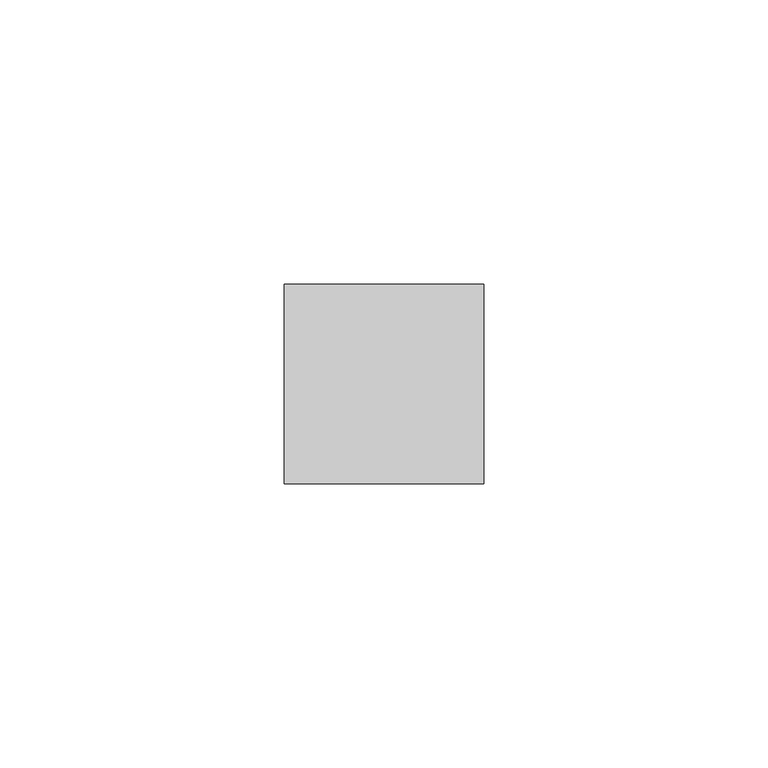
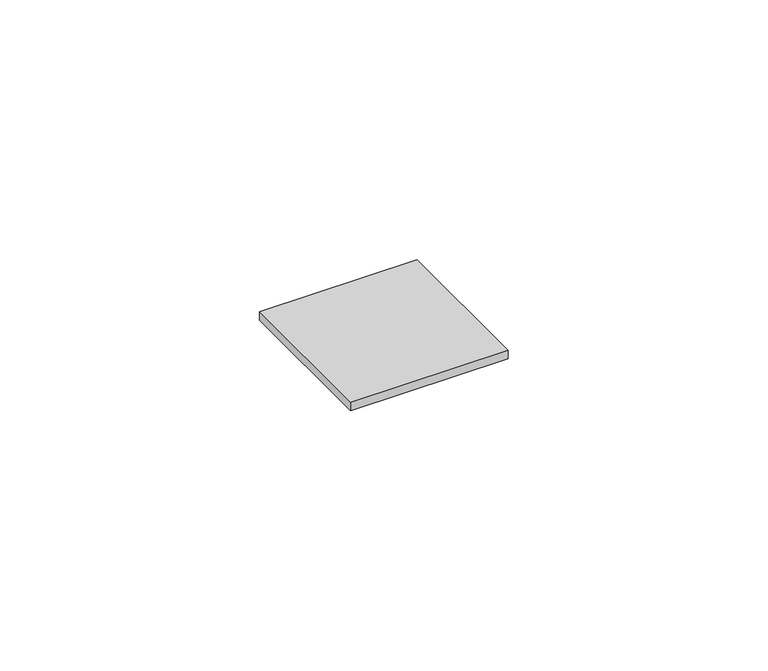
"""IFC4 building model written with IfcOpenShell, lengths in millimetres: duct fitting geometry, Накладка на стык - DLP - на защелках - для DLP - секционируемая - белая : Накладка на стык - DLP - на защелках - для DLP - секционируемая - белая."""

from ifc_helpers import new_model, si_unit, frame, origin, place, context, project, spatial, polyline, outline, extrude, source, transform, mapped, element, save


def duct_fitting_ebcba0b6(model_context):
    return source(origin(), model_context, "Body", "SweptSolid", [
        extrude(outline(polyline([(-17.5, 17.5), (17.5, 17.5), (17.5, -17.5), (-17.5, -17.5), (-17.5, 17.5)])), frame((0.0, 0.0, -1.0), z_axis=(0.0, 0.0, 1.0), x_axis=(1.0, 0.0, 0.0)), (0.0, 0.0, 1.0), 2.0),
    ])


if __name__ == "__main__":
    model = new_model("IFC4")
    model_context = context("Model", 3, world=origin())
    ifc_project = project(units=[si_unit("LENGTHUNIT", "METRE", prefix="MILLI")], contexts=[model_context])
    site = spatial("IfcSite", under=ifc_project)
    building = spatial("IfcBuilding", under=site)
    placement = place(None, origin())
    duct_fitting_shape = duct_fitting_ebcba0b6(model_context)
    element("IfcDuctFitting", 1, ObjectType="Накладка на стык - DLP - на защелках - для DLP - секционируемая - белая : Накладка на стык - DLP - на защелках - для DLP - секционируемая - белая", at=placement, inside=building, context=model_context, shape_type="MappedRepresentation", body=[
        mapped(duct_fitting_shape, transform((0.0, 0.0, 0.0), x_axis=(1.0, 0.0, 0.0), y_axis=(0.0, 1.0, 0.0), z_axis=(0.0, 0.0, 1.0))),
    ])
    save(model, "model.ifc")
